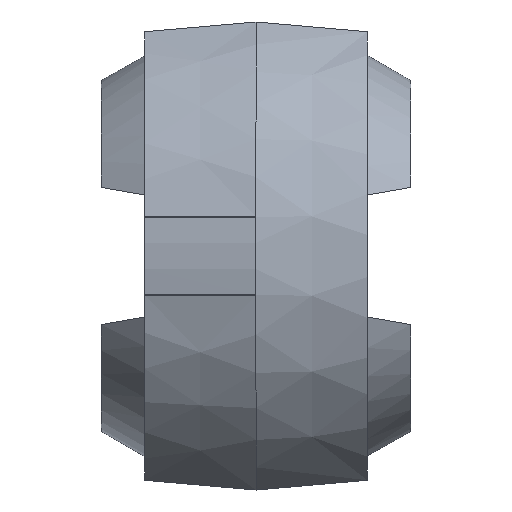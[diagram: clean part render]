
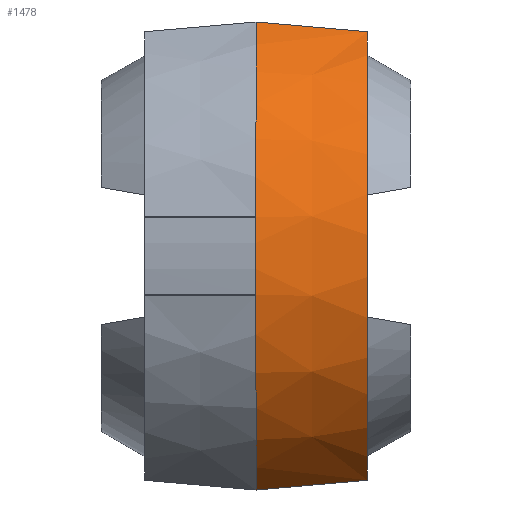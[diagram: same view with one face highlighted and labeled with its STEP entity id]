
A CAD part, left-side view. The second image highlights one B-rep face of the part: STEP entity #1478.
In plain terms, the highlighted conical face has half-angle 5 degrees and reference radius 5.5 mm.
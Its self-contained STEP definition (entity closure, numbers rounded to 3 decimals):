
#47 = DIRECTION ( 'NONE',  ( 0., 0., 1. ) ) ;
#226 = ORIENTED_EDGE ( 'NONE', *, *, #1358, .F. ) ;
#321 = CARTESIAN_POINT ( 'NONE',  ( -2.685, 0., 4.8 ) ) ;
#466 = CARTESIAN_POINT ( 'NONE',  ( -2.65, -1.524, -4.667 ) ) ;
#497 = DIRECTION ( 'NONE',  ( 0., 1., 0. ) ) ;
#676 = EDGE_CURVE ( 'NONE', #702, #2897, #2690, .T. ) ;
#702 = VERTEX_POINT ( 'NONE', #1687 ) ;
#728 = EDGE_LOOP ( 'NONE', ( #2016, #3098, #1548, #1859, #226, #2972 ) ) ;
#746 = FACE_OUTER_BOUND ( 'NONE', #728, .T. ) ;
#770 = EDGE_CURVE ( 'NONE', #2910, #1817, #1314, .T. ) ;
#782 = CONICAL_SURFACE ( 'NONE', #2479, 5.5, 0.087 ) ;
#849 = CARTESIAN_POINT ( 'NONE',  ( -2.632, -2.286, 4.6 ) ) ;
#877 = CARTESIAN_POINT ( 'NONE',  ( 0., -2.286, 0. ) ) ;
#904 = EDGE_CURVE ( 'NONE', #2260, #2910, #2905, .T. ) ;
#925 = CARTESIAN_POINT ( 'NONE',  ( -5.442, 0., 0.8 ) ) ;
#945 = CARTESIAN_POINT ( 'NONE',  ( 0., 0., 0. ) ) ;
#1079 = CARTESIAN_POINT ( 'NONE',  ( -2.685, 0., -4.8 ) ) ;
#1126 = CARTESIAN_POINT ( 'NONE',  ( -2.632, -2.286, 4.6 ) ) ;
#1160 = CARTESIAN_POINT ( 'NONE',  ( -2.685, 0., -4.8 ) ) ;
#1194 = DIRECTION ( 'NONE',  ( 0., 0., 1. ) ) ;
#1202 = DIRECTION ( 'NONE',  ( 0., 1., 0. ) ) ;
#1314 = B_SPLINE_CURVE_WITH_KNOTS ( 'NONE', 3,
 ( #849, #1552, #1737, #2505 ),
 .UNSPECIFIED., .F., .F.,
 ( 4, 4 ),
 ( 0.001, 0.003 ),
 .UNSPECIFIED. ) ;
#1336 = EDGE_CURVE ( 'NONE', #2260, #1953, #1763, .T. ) ;
#1358 = EDGE_CURVE ( 'NONE', #1953, #702, #2837, .T. ) ;
#1383 = CARTESIAN_POINT ( 'NONE',  ( -2.668, -0.762, -4.733 ) ) ;
#1478 = ADVANCED_FACE ( 'NONE', ( #746 ), #782, .T. ) ;
#1548 = ORIENTED_EDGE ( 'NONE', *, *, #3047, .F. ) ;
#1552 = CARTESIAN_POINT ( 'NONE',  ( -2.65, -1.524, 4.667 ) ) ;
#1687 = CARTESIAN_POINT ( 'NONE',  ( -5.442, 0., -0.8 ) ) ;
#1736 = AXIS2_PLACEMENT_3D ( 'NONE', #2886, #1921, #2169 ) ;
#1737 = CARTESIAN_POINT ( 'NONE',  ( -2.668, -0.762, 4.733 ) ) ;
#1763 = B_SPLINE_CURVE_WITH_KNOTS ( 'NONE', 3,
 ( #2574, #466, #1383, #1160 ),
 .UNSPECIFIED., .F., .F.,
 ( 4, 4 ),
 ( 0.001, 0.003 ),
 .UNSPECIFIED. ) ;
#1817 = VERTEX_POINT ( 'NONE', #321 ) ;
#1859 = ORIENTED_EDGE ( 'NONE', *, *, #676, .F. ) ;
#1884 = AXIS2_PLACEMENT_3D ( 'NONE', #2699, #1202, #2414 ) ;
#1896 = DIRECTION ( 'NONE',  ( 0., 1., 0. ) ) ;
#1921 = DIRECTION ( 'NONE',  ( 0., 1., 0. ) ) ;
#1953 = VERTEX_POINT ( 'NONE', #1079 ) ;
#2016 = ORIENTED_EDGE ( 'NONE', *, *, #904, .T. ) ;
#2086 = DIRECTION ( 'NONE',  ( 0., 0., 1. ) ) ;
#2169 = DIRECTION ( 'NONE',  ( 0., 0., 1. ) ) ;
#2260 = VERTEX_POINT ( 'NONE', #2375 ) ;
#2375 = CARTESIAN_POINT ( 'NONE',  ( -2.632, -2.286, -4.6 ) ) ;
#2414 = DIRECTION ( 'NONE',  ( 0., 0., 1. ) ) ;
#2479 = AXIS2_PLACEMENT_3D ( 'NONE', #2667, #497, #47 ) ;
#2505 = CARTESIAN_POINT ( 'NONE',  ( -2.685, 0., 4.8 ) ) ;
#2574 = CARTESIAN_POINT ( 'NONE',  ( -2.632, -2.286, -4.6 ) ) ;
#2667 = CARTESIAN_POINT ( 'NONE',  ( 0., 0., 0. ) ) ;
#2690 = CIRCLE ( 'NONE', #1736, 5.5 ) ;
#2699 = CARTESIAN_POINT ( 'NONE',  ( 0., 0., 0. ) ) ;
#2752 = AXIS2_PLACEMENT_3D ( 'NONE', #877, #3055, #1194 ) ;
#2837 = CIRCLE ( 'NONE', #2884, 5.5 ) ;
#2884 = AXIS2_PLACEMENT_3D ( 'NONE', #945, #1896, #2086 ) ;
#2886 = CARTESIAN_POINT ( 'NONE',  ( 0., 0., 0. ) ) ;
#2897 = VERTEX_POINT ( 'NONE', #925 ) ;
#2905 = CIRCLE ( 'NONE', #2752, 5.3 ) ;
#2910 = VERTEX_POINT ( 'NONE', #1126 ) ;
#2944 = CIRCLE ( 'NONE', #1884, 5.5 ) ;
#2972 = ORIENTED_EDGE ( 'NONE', *, *, #1336, .F. ) ;
#3047 = EDGE_CURVE ( 'NONE', #2897, #1817, #2944, .T. ) ;
#3055 = DIRECTION ( 'NONE',  ( 0., 1., 0. ) ) ;
#3098 = ORIENTED_EDGE ( 'NONE', *, *, #770, .T. ) ;
